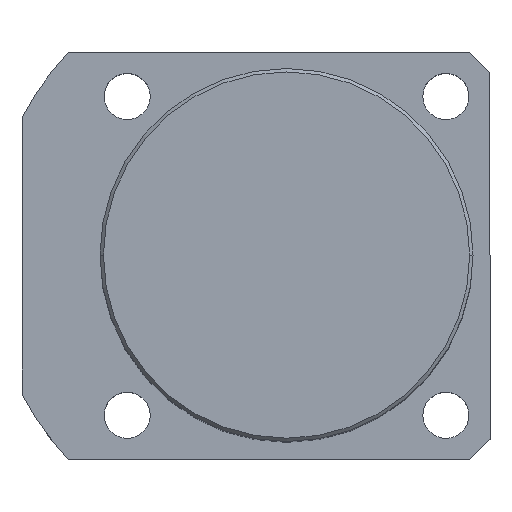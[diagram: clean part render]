
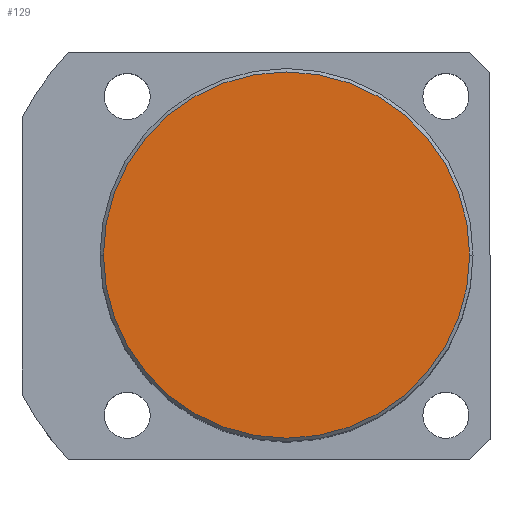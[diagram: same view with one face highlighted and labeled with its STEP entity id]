
A CAD part, top view. The second image highlights one B-rep face of the part: STEP entity #129.
In plain terms, the highlighted planar face has unit normal (0, 0, 1).
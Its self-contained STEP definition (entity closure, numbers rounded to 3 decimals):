
#8 = FACE_OUTER_BOUND ( 'NONE', #1791, .T. ) ;
#53 = DIRECTION ( 'NONE',  ( 0., 0., 1. ) ) ;
#58 = PLANE ( 'NONE',  #406 ) ;
#71 = EDGE_CURVE ( 'NONE', #94, #1333, #813, .T. ) ;
#94 = VERTEX_POINT ( 'NONE', #1594 ) ;
#129 = ADVANCED_FACE ( 'NONE', ( #8 ), #58, .T. ) ;
#151 = CARTESIAN_POINT ( 'NONE',  ( 0., 0., 80. ) ) ;
#177 = DIRECTION ( 'NONE',  ( 1., 0., 0. ) ) ;
#178 = CIRCLE ( 'NONE', #978, 27. ) ;
#293 = DIRECTION ( 'NONE',  ( 1., 0., 0. ) ) ;
#406 = AXIS2_PLACEMENT_3D ( 'NONE', #1324, #927, #177 ) ;
#520 = EDGE_CURVE ( 'NONE', #1333, #94, #178, .T. ) ;
#714 = ORIENTED_EDGE ( 'NONE', *, *, #520, .T. ) ;
#783 = AXIS2_PLACEMENT_3D ( 'NONE', #901, #53, #1177 ) ;
#787 = CARTESIAN_POINT ( 'NONE',  ( -27., 0., 80. ) ) ;
#795 = ORIENTED_EDGE ( 'NONE', *, *, #71, .T. ) ;
#813 = CIRCLE ( 'NONE', #783, 27. ) ;
#901 = CARTESIAN_POINT ( 'NONE',  ( 0., 0., 80. ) ) ;
#927 = DIRECTION ( 'NONE',  ( 0., 0., 1. ) ) ;
#978 = AXIS2_PLACEMENT_3D ( 'NONE', #151, #1146, #293 ) ;
#1146 = DIRECTION ( 'NONE',  ( 0., 0., 1. ) ) ;
#1177 = DIRECTION ( 'NONE',  ( 1., 0., 0. ) ) ;
#1324 = CARTESIAN_POINT ( 'NONE',  ( 0., 0., 80. ) ) ;
#1333 = VERTEX_POINT ( 'NONE', #787 ) ;
#1594 = CARTESIAN_POINT ( 'NONE',  ( 27., 0., 80. ) ) ;
#1791 = EDGE_LOOP ( 'NONE', ( #714, #795 ) ) ;
